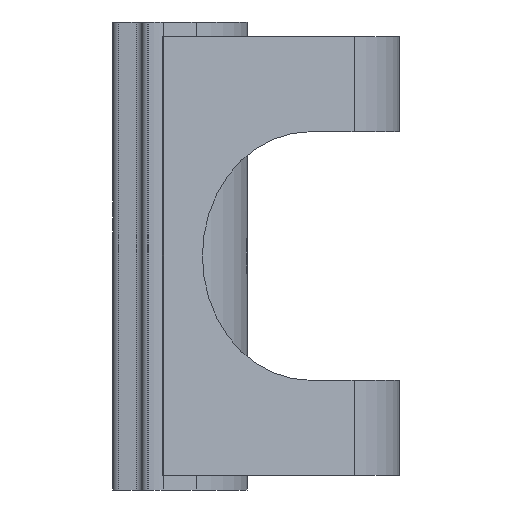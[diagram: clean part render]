
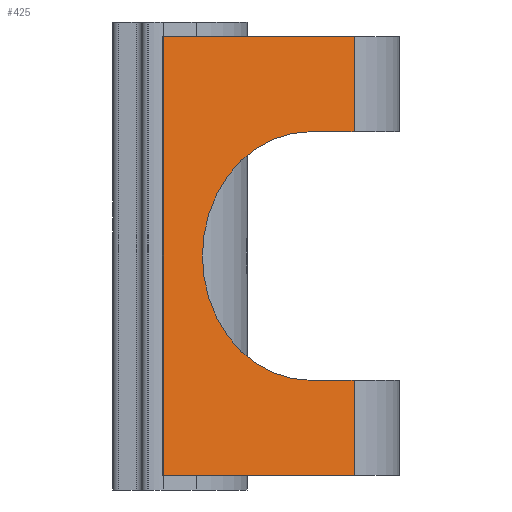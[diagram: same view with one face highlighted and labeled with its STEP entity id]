
A CAD part, left-side view. The second image highlights one B-rep face of the part: STEP entity #425.
In plain terms, the highlighted planar face has unit normal (-0.866, -0.5, 0).
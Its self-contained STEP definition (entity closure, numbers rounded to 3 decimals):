
#34 = AXIS2_PLACEMENT_3D ( 'NONE', #1375, #1119, #176 ) ;
#37 = LINE ( 'NONE', #996, #238 ) ;
#61 = DIRECTION ( 'NONE',  ( -0.5, 0.866, 0. ) ) ;
#62 = EDGE_CURVE ( 'NONE', #1306, #1491, #37, .T. ) ;
#69 = CARTESIAN_POINT ( 'NONE',  ( -5.771, -1.75, 15.5 ) ) ;
#75 = VECTOR ( 'NONE', #931, 1000. ) ;
#82 = DIRECTION ( 'NONE',  ( 0.5, -0.866, 0. ) ) ;
#88 = ORIENTED_EDGE ( 'NONE', *, *, #1570, .T. ) ;
#108 = EDGE_CURVE ( 'NONE', #1215, #675, #1659, .T. ) ;
#138 = CARTESIAN_POINT ( 'NONE',  ( -2.886, -6.747, 3.75 ) ) ;
#151 = EDGE_LOOP ( 'NONE', ( #430, #546, #897, #1713, #302, #556, #310, #88, #292 ) ) ;
#154 = AXIS2_PLACEMENT_3D ( 'NONE', #484, #594, #61 ) ;
#176 = DIRECTION ( 'NONE',  ( 0.5, -0.866, 0. ) ) ;
#238 = VECTOR ( 'NONE', #1256, 1000. ) ;
#285 = CARTESIAN_POINT ( 'NONE',  ( -5.011, -3.066, 8. ) ) ;
#292 = ORIENTED_EDGE ( 'NONE', *, *, #1299, .T. ) ;
#302 = ORIENTED_EDGE ( 'NONE', *, *, #970, .T. ) ;
#305 = CARTESIAN_POINT ( 'NONE',  ( -5.771, -1.75, 3.75 ) ) ;
#306 = DIRECTION ( 'NONE',  ( 0., 0., 1. ) ) ;
#310 = ORIENTED_EDGE ( 'NONE', *, *, #1406, .T. ) ;
#345 = DIRECTION ( 'NONE',  ( -0.5, 0.866, 0. ) ) ;
#350 = VECTOR ( 'NONE', #345, 1000. ) ;
#357 = CARTESIAN_POINT ( 'NONE',  ( -2.018, -8.25, 15.5 ) ) ;
#385 = VECTOR ( 'NONE', #1543, 1000. ) ;
#403 = LINE ( 'NONE', #790, #75 ) ;
#412 = VECTOR ( 'NONE', #82, 1000. ) ;
#414 = CARTESIAN_POINT ( 'NONE',  ( -2.886, -6.747, 8. ) ) ;
#425 = ADVANCED_FACE ( 'NONE', ( #1004 ), #829, .T. ) ;
#430 = ORIENTED_EDGE ( 'NONE', *, *, #108, .T. ) ;
#484 = CARTESIAN_POINT ( 'NONE',  ( -2.886, -6.747, 8. ) ) ;
#519 = CARTESIAN_POINT ( 'NONE',  ( -5.771, -1.75, 0.5 ) ) ;
#546 = ORIENTED_EDGE ( 'NONE', *, *, #1359, .T. ) ;
#553 = CARTESIAN_POINT ( 'NONE',  ( -2.018, -8.25, 15.5 ) ) ;
#556 = ORIENTED_EDGE ( 'NONE', *, *, #62, .T. ) ;
#579 = CIRCLE ( 'NONE', #1616, 4.25 ) ;
#594 = DIRECTION ( 'NONE',  ( 0.866, 0.5, 0. ) ) ;
#605 = LINE ( 'NONE', #69, #385 ) ;
#675 = VERTEX_POINT ( 'NONE', #138 ) ;
#703 = DIRECTION ( 'NONE',  ( -0.5, 0.866, 0. ) ) ;
#721 = CARTESIAN_POINT ( 'NONE',  ( -2.886, -6.747, 12.25 ) ) ;
#733 = CARTESIAN_POINT ( 'NONE',  ( -2.018, -8.25, 12.25 ) ) ;
#790 = CARTESIAN_POINT ( 'NONE',  ( -5.771, -1.75, 0.5 ) ) ;
#825 = VERTEX_POINT ( 'NONE', #721 ) ;
#829 = PLANE ( 'NONE',  #34 ) ;
#833 = DIRECTION ( 'NONE',  ( 0.866, 0.5, 0. ) ) ;
#857 = CARTESIAN_POINT ( 'NONE',  ( -5.771, -1.75, 12.25 ) ) ;
#897 = ORIENTED_EDGE ( 'NONE', *, *, #1685, .T. ) ;
#909 = VECTOR ( 'NONE', #306, 1000. ) ;
#923 = CARTESIAN_POINT ( 'NONE',  ( -5.771, -1.75, 15.5 ) ) ;
#931 = DIRECTION ( 'NONE',  ( 0.5, -0.866, 0. ) ) ;
#970 = EDGE_CURVE ( 'NONE', #1333, #1306, #1560, .T. ) ;
#996 = CARTESIAN_POINT ( 'NONE',  ( -5.771, -1.75, 15.5 ) ) ;
#1004 = FACE_OUTER_BOUND ( 'NONE', #151, .T. ) ;
#1006 = VERTEX_POINT ( 'NONE', #1135 ) ;
#1105 = CARTESIAN_POINT ( 'NONE',  ( -2.018, -8.25, 3.75 ) ) ;
#1119 = DIRECTION ( 'NONE',  ( -0.866, -0.5, 0. ) ) ;
#1135 = CARTESIAN_POINT ( 'NONE',  ( -2.018, -8.25, 0.5 ) ) ;
#1206 = VERTEX_POINT ( 'NONE', #285 ) ;
#1215 = VERTEX_POINT ( 'NONE', #1105 ) ;
#1248 = CARTESIAN_POINT ( 'NONE',  ( -2.018, -8.25, 15.5 ) ) ;
#1252 = CIRCLE ( 'NONE', #154, 4.25 ) ;
#1256 = DIRECTION ( 'NONE',  ( -0.5, 0.866, 0. ) ) ;
#1286 = LINE ( 'NONE', #857, #412 ) ;
#1299 = EDGE_CURVE ( 'NONE', #1006, #1215, #1652, .T. ) ;
#1306 = VERTEX_POINT ( 'NONE', #1248 ) ;
#1333 = VERTEX_POINT ( 'NONE', #733 ) ;
#1359 = EDGE_CURVE ( 'NONE', #675, #1206, #1252, .T. ) ;
#1375 = CARTESIAN_POINT ( 'NONE',  ( -5.771, -1.75, 15.5 ) ) ;
#1406 = EDGE_CURVE ( 'NONE', #1491, #1501, #605, .T. ) ;
#1431 = DIRECTION ( 'NONE',  ( 0., 0., 1. ) ) ;
#1439 = EDGE_CURVE ( 'NONE', #825, #1333, #1286, .T. ) ;
#1491 = VERTEX_POINT ( 'NONE', #923 ) ;
#1501 = VERTEX_POINT ( 'NONE', #519 ) ;
#1543 = DIRECTION ( 'NONE',  ( 0., 0., -1. ) ) ;
#1560 = LINE ( 'NONE', #357, #1728 ) ;
#1570 = EDGE_CURVE ( 'NONE', #1501, #1006, #403, .T. ) ;
#1616 = AXIS2_PLACEMENT_3D ( 'NONE', #414, #833, #703 ) ;
#1652 = LINE ( 'NONE', #553, #909 ) ;
#1659 = LINE ( 'NONE', #305, #350 ) ;
#1685 = EDGE_CURVE ( 'NONE', #1206, #825, #579, .T. ) ;
#1713 = ORIENTED_EDGE ( 'NONE', *, *, #1439, .T. ) ;
#1728 = VECTOR ( 'NONE', #1431, 1000. ) ;
